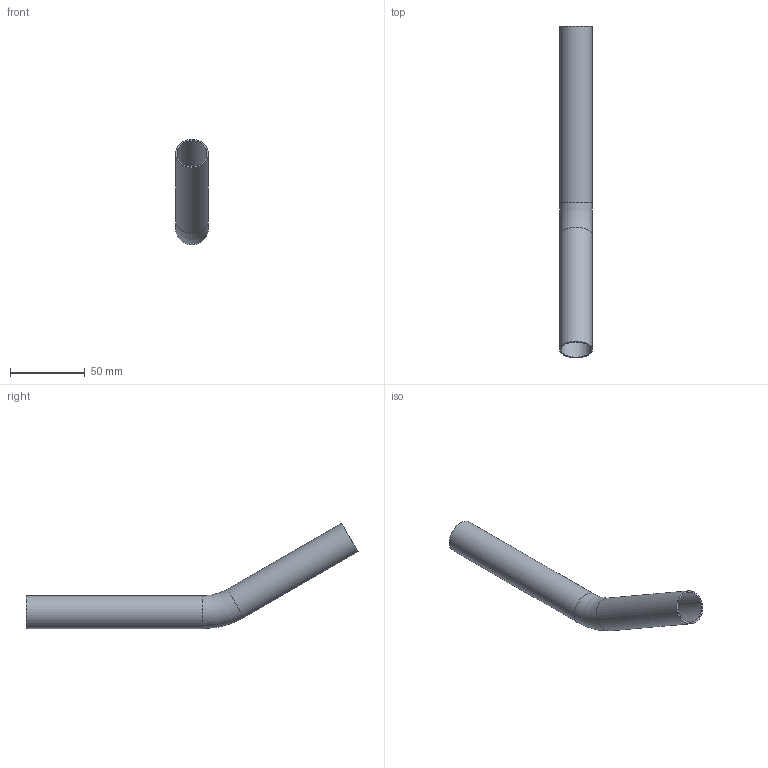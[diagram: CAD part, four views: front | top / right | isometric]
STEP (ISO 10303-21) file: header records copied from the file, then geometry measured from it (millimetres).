
FILE_DESCRIPTION(('STEP AP203'), '1');
FILE_NAME('ÂÐ.747111.010 - VTi.955.I.302222 Îòâîä 30 ãð. d22 (100õ130)', '', ('UNSPECIFIED'), ('UNSPECIFIED'), 'C3D Converter', 'C3D Toolkit', '');
FILE_SCHEMA(('CONFIG_CONTROL_DESIGN'));
Length unit declared in the file: millimetre
Products named in the file (1): ВР.747111.010
Bounding box: 22 x 222.1 x 70.53 mm (x, y, z)
Volume: 15138.2 mm3; surface area: 30408.3 mm2
Topology: 1 solids, 1 shells, 8 faces, 14 edges, 8 vertices
Faces by surface type: cylinder 4, torus 2, plane 2
Full cylindrical faces by diameter (mm): 20 x2, 22 x2
Entity records: 208 total; most frequent: DIRECTION 34, CARTESIAN_POINT 25, AXIS2_PLACEMENT_3D 17, EDGE_LOOP 16, ORIENTED_EDGE 16, FACE_OUTER_BOUND 12, ADVANCED_FACE 8, EDGE_CURVE 8
